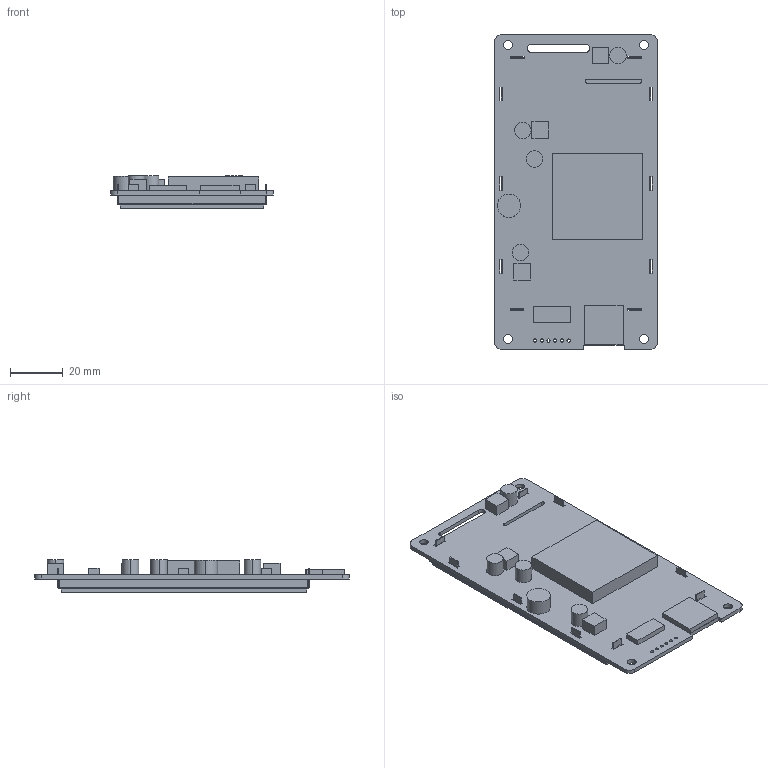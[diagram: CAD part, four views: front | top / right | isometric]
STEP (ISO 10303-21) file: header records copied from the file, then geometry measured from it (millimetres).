
FILE_DESCRIPTION (( 'STEP AP214' ), '1' );
FILE_NAME ('DMG80480C040_03WTR 3D.STEP', '2023-08-14T08:57:41', ( '' ), ( 'Microsoft' ), 'SwSTEP 2.0', 'SolidWorks 2017', '' );
FILE_SCHEMA (( 'AUTOMOTIVE_DESIGN' ));
Length unit declared in the file: millimetre
Products named in the file (5): DMG80480C040_03WTR 3D; TK040001; YF04003; FC397HIL340-05(LI48800T040HA5004); DMG80480c040-03wtr
Assembly tree (4 placements, depth 2):
  DMG80480C040_03WTR 3D
    DMG80480c040-03wtr
    FC397HIL340-05(LI48800T040HA5004)
    YF04003
    TK040001
Bounding box: 61.85 x 119.51 x 12.5 mm (x, y, z)
Volume: 37525.4 mm3; surface area: 43216.7 mm2
Topology: 4 solids, 4 shells, 271 faces, 712 edges, 464 vertices
Faces by surface type: plane 215, cylinder 48, bspline 8
Entity records: 11197 total; most frequent: CARTESIAN_POINT 1798, ORIENTED_EDGE 1424, DIRECTION 1316, EDGE_CURVE 712, VECTOR 616, LINE 616, VERTEX_POINT 464, AXIS2_PLACEMENT_3D 350
